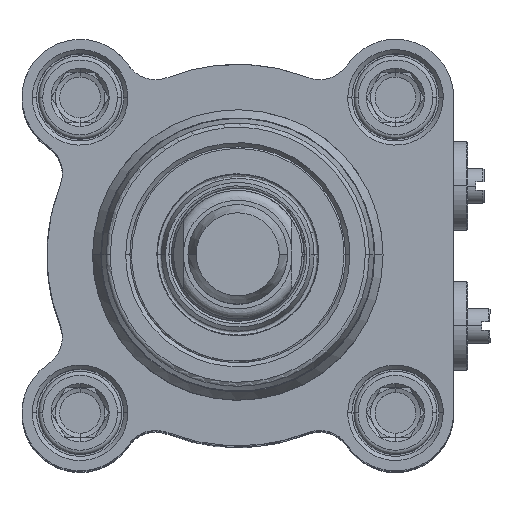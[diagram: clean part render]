
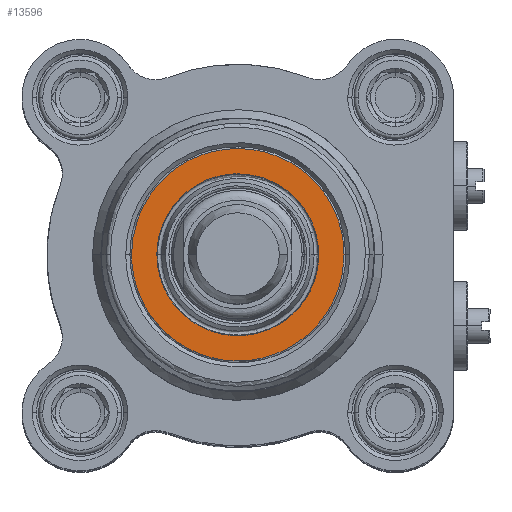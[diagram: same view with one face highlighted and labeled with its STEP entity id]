
A CAD part, top view. The second image highlights one B-rep face of the part: STEP entity #13596.
In plain terms, the highlighted planar face has unit normal (0, 0, 1).
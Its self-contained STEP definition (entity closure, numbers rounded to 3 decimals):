
#393 = CARTESIAN_POINT ( 'NONE',  ( 12.8, 1.676, 86.3 ) ) ;
#460 = EDGE_CURVE ( 'NONE', #2832, #11492, #21576, .T. ) ;
#694 = CARTESIAN_POINT ( 'NONE',  ( -7.797, 5.992, 86.3 ) ) ;
#1153 = CARTESIAN_POINT ( 'NONE',  ( -4.91, -8.519, 86.3 ) ) ;
#1711 = FACE_BOUND ( 'NONE', #23976, .T. ) ;
#1899 = B_SPLINE_CURVE_WITH_KNOTS ( 'NONE', 3,
 ( #25496, #14374, #4776, #27754, #23386, #2953, #16477, #11813, #11662, #25646, #5061, #25795, #21142, #694, #14221, #27597, #13921, #23084 ),
 .UNSPECIFIED., .F., .F.,
 ( 4, 2, 2, 2, 2, 2, 2, 2, 4 ),
 ( 0.5, 0.563, 0.625, 0.688, 0.75, 0.813, 0.875, 0.938, 1. ),
 .UNSPECIFIED. ) ;
#2197 = CARTESIAN_POINT ( 'NONE',  ( 6.446, 11.184, 86.3 ) ) ;
#2497 = CARTESIAN_POINT ( 'NONE',  ( 11.184, 6.446, 86.3 ) ) ;
#2832 = VERTEX_POINT ( 'NONE', #11978 ) ;
#2887 = VERTEX_POINT ( 'NONE', #21600 ) ;
#2953 = CARTESIAN_POINT ( 'NONE',  ( 5.992, 7.797, 86.3 ) ) ;
#2972 = CARTESIAN_POINT ( 'NONE',  ( 8.519, -4.91, 86.3 ) ) ;
#3511 = B_SPLINE_CURVE_WITH_KNOTS ( 'NONE', 3,
 ( #10031, #16948, #21750, #19214, #26108, #28211, #1153, #28646, #8071, #5817, #14978, #24139, #23556, #3559, #2972, #21306, #26985, #27135 ),
 .UNSPECIFIED., .F., .F.,
 ( 4, 2, 2, 2, 2, 2, 2, 2, 4 ),
 ( 0., 0.062, 0.125, 0.188, 0.25, 0.313, 0.375, 0.438, 0.5 ),
 .UNSPECIFIED. ) ;
#3559 = CARTESIAN_POINT ( 'NONE',  ( 7.797, -5.992, 86.3 ) ) ;
#3686 = CARTESIAN_POINT ( 'NONE',  ( 12.8, 0., 86.3 ) ) ;
#3976 = CARTESIAN_POINT ( 'NONE',  ( -12.467, -3.35, 86.3 ) ) ;
#4012 = CARTESIAN_POINT ( 'NONE',  ( -3.35, 12.467, 86.3 ) ) ;
#4776 = CARTESIAN_POINT ( 'NONE',  ( 9.496, 2.552, 86.3 ) ) ;
#5056 = CARTESIAN_POINT ( 'NONE',  ( 7.866, 10.236, 86.3 ) ) ;
#5061 = CARTESIAN_POINT ( 'NONE',  ( -2.552, 9.496, 86.3 ) ) ;
#5817 = CARTESIAN_POINT ( 'NONE',  ( 1.276, -9.75, 86.3 ) ) ;
#5935 = CARTESIAN_POINT ( 'NONE',  ( 10.236, -7.866, 86.3 ) ) ;
#6084 = CARTESIAN_POINT ( 'NONE',  ( -12.8, 0., 86.3 ) ) ;
#6225 = CARTESIAN_POINT ( 'NONE',  ( -10.236, -7.866, 86.3 ) ) ;
#6262 = CARTESIAN_POINT ( 'NONE',  ( -10.236, 7.866, 86.3 ) ) ;
#6673 = EDGE_CURVE ( 'NONE', #2887, #21152, #1899, .T. ) ;
#8071 = CARTESIAN_POINT ( 'NONE',  ( -1.276, -9.75, 86.3 ) ) ;
#8185 = FACE_OUTER_BOUND ( 'NONE', #10745, .T. ) ;
#8192 = CARTESIAN_POINT ( 'NONE',  ( 12.467, -3.35, 86.3 ) ) ;
#8339 = CARTESIAN_POINT ( 'NONE',  ( 1.676, -12.8, 86.3 ) ) ;
#8637 = CARTESIAN_POINT ( 'NONE',  ( -11.184, -6.446, 86.3 ) ) ;
#9371 = ORIENTED_EDGE ( 'NONE', *, *, #460, .F. ) ;
#9424 = CARTESIAN_POINT ( 'NONE',  ( 12.467, 3.35, 86.3 ) ) ;
#10031 = CARTESIAN_POINT ( 'NONE',  ( -9.75, 0., 86.3 ) ) ;
#10437 = CARTESIAN_POINT ( 'NONE',  ( 0., -12.8, 86.3 ) ) ;
#10503 = ORIENTED_EDGE ( 'NONE', *, *, #12002, .F. ) ;
#10745 = EDGE_LOOP ( 'NONE', ( #10503, #9371 ) ) ;
#10763 = CARTESIAN_POINT ( 'NONE',  ( -12.467, 3.35, 86.3 ) ) ;
#10870 = DIRECTION ( 'NONE',  ( 0., -1., 0. ) ) ;
#10881 = CARTESIAN_POINT ( 'NONE',  ( 3.35, -12.467, 86.3 ) ) ;
#10915 = CARTESIAN_POINT ( 'NONE',  ( 1.676, 12.8, 86.3 ) ) ;
#11292 = CARTESIAN_POINT ( 'NONE',  ( -9.75, 0., 86.3 ) ) ;
#11492 = VERTEX_POINT ( 'NONE', #27336 ) ;
#11662 = CARTESIAN_POINT ( 'NONE',  ( 1.276, 9.75, 86.3 ) ) ;
#11813 = CARTESIAN_POINT ( 'NONE',  ( 2.552, 9.496, 86.3 ) ) ;
#11978 = CARTESIAN_POINT ( 'NONE',  ( -12.8, 0., 86.3 ) ) ;
#12002 = EDGE_CURVE ( 'NONE', #11492, #2832, #20470, .T. ) ;
#13596 = ADVANCED_FACE ( 'NONE', ( #8185, #1711 ), #15088, .F. ) ;
#13921 = CARTESIAN_POINT ( 'NONE',  ( -9.75, 1.276, 86.3 ) ) ;
#14221 = CARTESIAN_POINT ( 'NONE',  ( -8.519, 4.91, 86.3 ) ) ;
#14374 = CARTESIAN_POINT ( 'NONE',  ( 9.75, 1.276, 86.3 ) ) ;
#14952 = DIRECTION ( 'NONE',  ( 0., 0., -1. ) ) ;
#14978 = CARTESIAN_POINT ( 'NONE',  ( 2.552, -9.496, 86.3 ) ) ;
#15088 = PLANE ( 'NONE',  #22074 ) ;
#15286 = CARTESIAN_POINT ( 'NONE',  ( -12.8, 0., 86.3 ) ) ;
#15435 = CARTESIAN_POINT ( 'NONE',  ( -7.866, 10.236, 86.3 ) ) ;
#15697 = CARTESIAN_POINT ( 'NONE',  ( 7.866, -10.236, 86.3 ) ) ;
#16477 = CARTESIAN_POINT ( 'NONE',  ( 4.91, 8.519, 86.3 ) ) ;
#16948 = CARTESIAN_POINT ( 'NONE',  ( -9.75, -1.276, 86.3 ) ) ;
#17511 = CARTESIAN_POINT ( 'NONE',  ( -3.35, -12.467, 86.3 ) ) ;
#17655 = CARTESIAN_POINT ( 'NONE',  ( -1.676, -12.8, 86.3 ) ) ;
#17840 = CARTESIAN_POINT ( 'NONE',  ( 3.35, 12.467, 86.3 ) ) ;
#18747 = CARTESIAN_POINT ( 'NONE',  ( 12.8, 0., 86.3 ) ) ;
#19214 = CARTESIAN_POINT ( 'NONE',  ( -8.519, -4.91, 86.3 ) ) ;
#19620 = CARTESIAN_POINT ( 'NONE',  ( -6.446, -11.184, 86.3 ) ) ;
#20063 = CARTESIAN_POINT ( 'NONE',  ( 12.8, -1.676, 86.3 ) ) ;
#20170 = ORIENTED_EDGE ( 'NONE', *, *, #6673, .F. ) ;
#20210 = CARTESIAN_POINT ( 'NONE',  ( 11.184, -6.446, 86.3 ) ) ;
#20470 = B_SPLINE_CURVE_WITH_KNOTS ( 'NONE', 3,
 ( #3686, #20063, #8192, #20210, #5935, #15697, #22306, #10881, #8339, #17655, #17511, #19620, #22007, #6225, #8637, #3976, #26667, #6084 ),
 .UNSPECIFIED., .F., .F.,
 ( 4, 2, 2, 2, 2, 2, 2, 2, 4 ),
 ( 0.5, 0.563, 0.625, 0.687, 0.75, 0.813, 0.875, 0.938, 1. ),
 .UNSPECIFIED. ) ;
#21142 = CARTESIAN_POINT ( 'NONE',  ( -5.992, 7.797, 86.3 ) ) ;
#21152 = VERTEX_POINT ( 'NONE', #11292 ) ;
#21306 = CARTESIAN_POINT ( 'NONE',  ( 9.496, -2.552, 86.3 ) ) ;
#21576 = B_SPLINE_CURVE_WITH_KNOTS ( 'NONE', 3,
 ( #15286, #26852, #10763, #29094, #6262, #15435, #24581, #4012, #22338, #10915, #17840, #2197, #5056, #23382, #2497, #9424, #393, #18747 ),
 .UNSPECIFIED., .F., .F.,
 ( 4, 2, 2, 2, 2, 2, 2, 2, 4 ),
 ( 0., 0.063, 0.125, 0.188, 0.25, 0.313, 0.375, 0.438, 0.5 ),
 .UNSPECIFIED. ) ;
#21600 = CARTESIAN_POINT ( 'NONE',  ( 9.75, 0., 86.3 ) ) ;
#21750 = CARTESIAN_POINT ( 'NONE',  ( -9.496, -2.552, 86.3 ) ) ;
#22007 = CARTESIAN_POINT ( 'NONE',  ( -7.866, -10.236, 86.3 ) ) ;
#22074 = AXIS2_PLACEMENT_3D ( 'NONE', #10437, #14952, #10870 ) ;
#22306 = CARTESIAN_POINT ( 'NONE',  ( 6.446, -11.184, 86.3 ) ) ;
#22338 = CARTESIAN_POINT ( 'NONE',  ( -1.676, 12.8, 86.3 ) ) ;
#23084 = CARTESIAN_POINT ( 'NONE',  ( -9.75, 0., 86.3 ) ) ;
#23382 = CARTESIAN_POINT ( 'NONE',  ( 10.236, 7.866, 86.3 ) ) ;
#23386 = CARTESIAN_POINT ( 'NONE',  ( 7.797, 5.992, 86.3 ) ) ;
#23465 = ORIENTED_EDGE ( 'NONE', *, *, #28046, .F. ) ;
#23556 = CARTESIAN_POINT ( 'NONE',  ( 5.992, -7.797, 86.3 ) ) ;
#23976 = EDGE_LOOP ( 'NONE', ( #23465, #20170 ) ) ;
#24139 = CARTESIAN_POINT ( 'NONE',  ( 4.91, -8.519, 86.3 ) ) ;
#24581 = CARTESIAN_POINT ( 'NONE',  ( -6.446, 11.184, 86.3 ) ) ;
#25496 = CARTESIAN_POINT ( 'NONE',  ( 9.75, 0., 86.3 ) ) ;
#25646 = CARTESIAN_POINT ( 'NONE',  ( -1.276, 9.75, 86.3 ) ) ;
#25795 = CARTESIAN_POINT ( 'NONE',  ( -4.91, 8.519, 86.3 ) ) ;
#26108 = CARTESIAN_POINT ( 'NONE',  ( -7.797, -5.992, 86.3 ) ) ;
#26667 = CARTESIAN_POINT ( 'NONE',  ( -12.8, -1.676, 86.3 ) ) ;
#26852 = CARTESIAN_POINT ( 'NONE',  ( -12.8, 1.676, 86.3 ) ) ;
#26985 = CARTESIAN_POINT ( 'NONE',  ( 9.75, -1.276, 86.3 ) ) ;
#27135 = CARTESIAN_POINT ( 'NONE',  ( 9.75, 0., 86.3 ) ) ;
#27336 = CARTESIAN_POINT ( 'NONE',  ( 12.8, 0., 86.3 ) ) ;
#27597 = CARTESIAN_POINT ( 'NONE',  ( -9.496, 2.552, 86.3 ) ) ;
#27754 = CARTESIAN_POINT ( 'NONE',  ( 8.519, 4.91, 86.3 ) ) ;
#28046 = EDGE_CURVE ( 'NONE', #21152, #2887, #3511, .T. ) ;
#28211 = CARTESIAN_POINT ( 'NONE',  ( -5.992, -7.797, 86.3 ) ) ;
#28646 = CARTESIAN_POINT ( 'NONE',  ( -2.552, -9.496, 86.3 ) ) ;
#29094 = CARTESIAN_POINT ( 'NONE',  ( -11.184, 6.446, 86.3 ) ) ;
